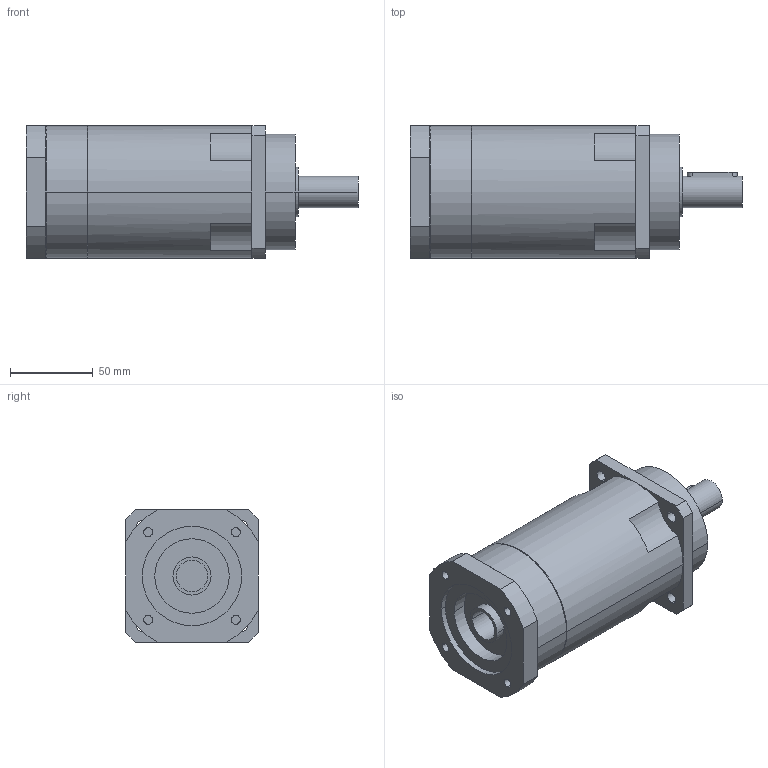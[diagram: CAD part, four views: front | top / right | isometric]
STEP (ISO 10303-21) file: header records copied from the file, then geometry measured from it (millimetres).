
FILE_DESCRIPTION(('CoCreate Modeling STEP Export'),'2;1');
FILE_NAME('GPR100_ig-48-64-80-100-120-144-180-216_19_B5_19_P03.stp','2014-08-26T11:56:43',(''),(''),'CoCreate Modeling STEP processor for AP214 (Solid Model)','CoCreate Modeling 16.00C 25-Feb-2009 (C) Parametric Technology GmbH','');
FILE_SCHEMA(('AUTOMOTIVE_DESIGN { 1 0 10303 214 1 1 1 1 }'));
Length unit declared in the file: millimetre
Products named in the file (2): GPR100_ig-48-64-80-100-120-144-180-216_19_B5_19_P03
Assembly tree (1 placements, depth 2):
  GPR100_ig-48-64-80-100-120-144-180-216_19_B5_19_P03
    GPR100_ig-48-64-80-100-120-144-180-216_19_B5_19_P03
Bounding box: 200.4 x 80 x 80 mm (x, y, z)
Volume: 783987.4 mm3; surface area: 65031.7 mm2
Topology: 1 solids, 1 shells, 102 faces, 294 edges, 202 vertices
Faces by surface type: cylinder 58, plane 38, cone 6
Entity records: 3085 total; most frequent: CARTESIAN_POINT 634, ORIENTED_EDGE 584, DIRECTION 426, EDGE_CURVE 292, VERTEX_POINT 202, AXIS2_PLACEMENT_3D 162, EDGE_LOOP 128, VECTOR 102
